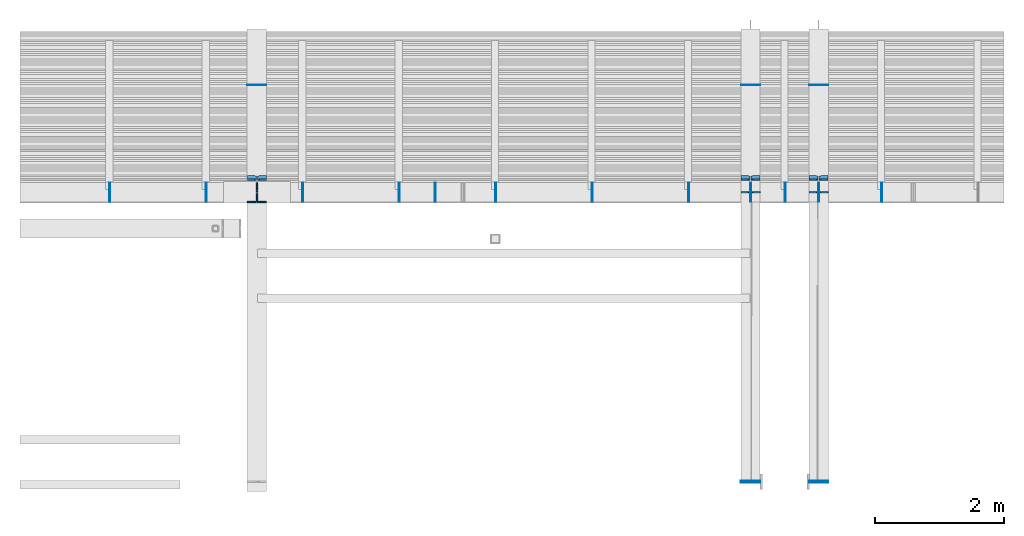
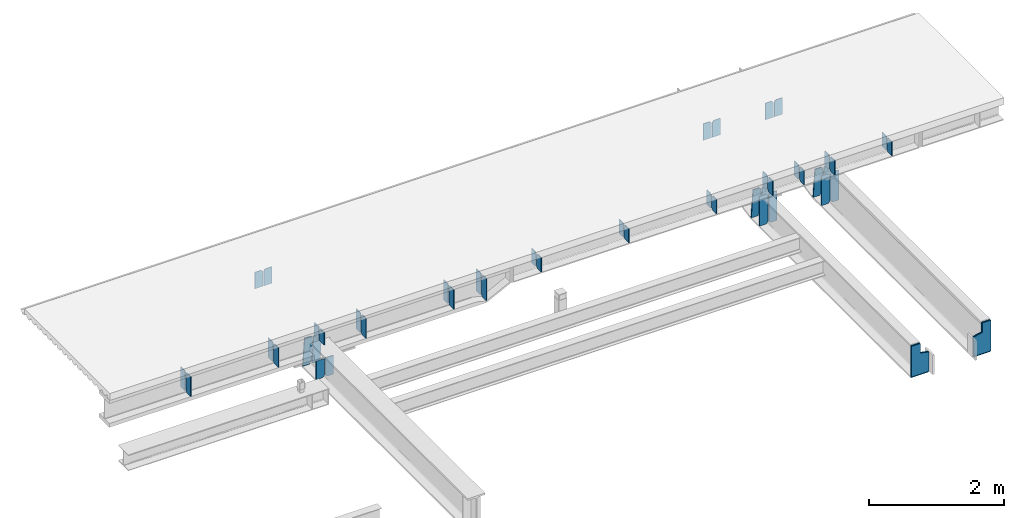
# One storey, part 2 of 12: 48 plates.
"""IFC2X3 building model written with IfcOpenShell, lengths in millimetres."""

import ifcopenshell
import ifcopenshell.guid

model = None  # the IFC model being written
_history = None  # IfcOwnerHistory: only IFC2X3 demands one
_inside = {}  # id of a spatial element -> (the spatial element, [elements in it])
_under = {}  # id of a project, library or spatial element -> (it, [spatial elements below it])
_declared = {}  # id of a project -> (the project, [libraries it declares])
_typed = {}  # id of a type object -> (the type object, [elements of that type])
_made_of = {}  # id of a material, layer set ... -> (it, [elements and type objects made of it])


def new_model(schema):
    """Start an empty IFC model of exactly this schema.

    Asked for "IFC4X3", IfcOpenShell would pick the latest addendum, in which some entities
    have other attributes; the version numbers below select the first issue.
    IFC2X3 requires an IfcOwnerHistory on every rooted entity: one is made here for all.
    """
    global model, _history
    if schema == "IFC4X3":
        model = ifcopenshell.file(schema_version=(4, 3, 0, 0))
    else:
        model = ifcopenshell.file(schema=schema)
    _inside.clear()
    _under.clear()
    _declared.clear()
    _typed.clear()
    _made_of.clear()
    _history = None
    if model.schema == "IFC2X3":
        org = make("IfcOrganization", Name="unknown")
        user = make(
            "IfcPersonAndOrganization",
            ThePerson=make("IfcPerson", FamilyName="unknown"),
            TheOrganization=org,
        )
        app = make(
            "IfcApplication",
            ApplicationDeveloper=org,
            Version="unknown",
            ApplicationFullName="unknown",
            ApplicationIdentifier="unknown",
        )
        _history = make(
            "IfcOwnerHistory",
            OwningUser=user,
            OwningApplication=app,
            ChangeAction="ADDED",
            CreationDate=0,
        )
    return model


def make(cls, **values):
    """One entity of the class cls with the attributes given. An attribute that is None is left unset."""
    return model.create_entity(
        cls, **{name: value for name, value in values.items() if value is not None}
    )


def entity(cls, *values):
    """Any entity or typed value of the class cls, its attributes in the order of the schema. None: left unset."""
    e = model.create_entity(cls)
    for i, value in enumerate(values):
        if value is not None:
            e[i] = value
    return e


def rooted(cls, **values):
    """An entity with a GlobalId (a new one), such as an element, a storey or a relation."""
    return make(cls, GlobalId=ifcopenshell.guid.new(), OwnerHistory=_history, **values)


def si_unit(unit_type, name, prefix=None):
    """IfcSIUnit, for example si_unit("LENGTHUNIT", "METRE", prefix="MILLI")."""
    return make("IfcSIUnit", UnitType=unit_type, Prefix=prefix, Name=name)


def converted_unit(unit_type, name, factor, base, dimensions=None, offset=None):
    """IfcConversionBasedUnit, such as the inch: factor (a typed value) times the base unit."""
    return make(
        "IfcConversionBasedUnit"
        if offset is None
        else "IfcConversionBasedUnitWithOffset",
        ConversionOffset=offset,
        Dimensions=None
        if dimensions is None
        else entity("IfcDimensionalExponents", *dimensions),
        UnitType=unit_type,
        Name=name,
        ConversionFactor=make(
            "IfcMeasureWithUnit", ValueComponent=factor, UnitComponent=base
        ),
    )


def derived_unit(unit_type, elements):
    """IfcDerivedUnit: a product of units, each with its exponent."""
    return make(
        "IfcDerivedUnit",
        Elements=[
            make("IfcDerivedUnitElement", Unit=unit, Exponent=power)
            for unit, power in elements
        ],
        UnitType=unit_type,
    )


def assignment(units):
    """IfcUnitAssignment: the units of a project."""
    return None if units is None else make("IfcUnitAssignment", Units=units)


def point(xyz):
    """IfcCartesianPoint."""
    return None if xyz is None else make("IfcCartesianPoint", Coordinates=xyz)


def direction(xyz):
    """IfcDirection."""
    return None if xyz is None else make("IfcDirection", DirectionRatios=xyz)


def frame(location, z_axis=None, x_axis=None):
    """IfcAxis2Placement3D, a coordinate frame: its origin and axes. An axis left out is left unset."""
    return make(
        "IfcAxis2Placement3D",
        Location=point(location),
        Axis=direction(z_axis),
        RefDirection=direction(x_axis),
    )


def origin_with_axes():
    """The frame at (0, 0, 0) with the z axis (0, 0, 1) and the x axis (1, 0, 0) written out."""
    return frame((0.0, 0.0, 0.0), z_axis=(0.0, 0.0, 1.0), x_axis=(1.0, 0.0, 0.0))


def place(relative_to, where):
    """IfcLocalPlacement: puts the frame where relative to a parent placement (None: the world)."""
    return make(
        "IfcLocalPlacement", PlacementRelTo=relative_to, RelativePlacement=where
    )


def context(
    kind, dimensions, precision=None, world=None, true_north=None, identifier=None
):
    """IfcGeometricRepresentationContext, for example the 3D "Model" context."""
    return make(
        "IfcGeometricRepresentationContext",
        ContextIdentifier=identifier,
        ContextType=kind,
        CoordinateSpaceDimension=dimensions,
        Precision=precision,
        WorldCoordinateSystem=world,
        TrueNorth=true_north,
    )


def subcontext(parent, identifier, kind, view, scale=None):
    """IfcGeometricRepresentationSubContext, for example "Body" below "Model"."""
    return make(
        "IfcGeometricRepresentationSubContext",
        ContextIdentifier=identifier,
        ContextType=kind,
        ParentContext=parent,
        TargetScale=scale,
        TargetView=view,
    )


def project(units=None, contexts=None):
    """IfcProject with its units and contexts."""
    return rooted(
        "IfcProject",
        Name="project",
        RepresentationContexts=contexts,
        UnitsInContext=assignment(units),
    )


def spatial(cls, under=None, at=None, **own):
    """A site, building, storey or space (cls), placed at a placement, below another one or the project."""
    s = rooted(cls, ObjectPlacement=at, **own)
    if under is not None:
        _under.setdefault(under.id(), (under, []))[1].append(s)
    return s


def polyline(points):
    """IfcPolyline through the points."""
    return make("IfcPolyline", Points=[point(p) for p in points])


def outline(outer, holes=None, kind="AREA"):
    """IfcArbitraryClosedProfileDef: a profile drawn as a closed curve; with holes, ...WithVoids."""
    if holes is None:
        return make("IfcArbitraryClosedProfileDef", ProfileType=kind, OuterCurve=outer)
    return make(
        "IfcArbitraryProfileDefWithVoids",
        ProfileType=kind,
        OuterCurve=outer,
        InnerCurves=holes,
    )


def extrude(swept, where, along, depth):
    """IfcExtrudedAreaSolid: the profile swept, set in the frame where, extruded along a direction by depth."""
    return make(
        "IfcExtrudedAreaSolid",
        SweptArea=swept,
        Position=where,
        ExtrudedDirection=direction(along),
        Depth=depth,
    )


def clip(a, b, op="DIFFERENCE"):
    """IfcBooleanClippingResult: the solid a cut by the half space b."""
    return make(
        "IfcBooleanClippingResult", Operator=op, FirstOperand=a, SecondOperand=b
    )


def halfspace(plane, agree):
    """IfcHalfSpaceSolid: all space on one side of the plane z = 0 of the frame plane."""
    return make(
        "IfcHalfSpaceSolid",
        BaseSurface=make("IfcPlane", Position=plane),
        AgreementFlag=agree,
    )


def shape(context_of_items, identifier, shape_type, items):
    """IfcShapeRepresentation: the items that make up one representation, for example the "Body"."""
    return make(
        "IfcShapeRepresentation",
        ContextOfItems=context_of_items,
        RepresentationIdentifier=identifier,
        RepresentationType=shape_type,
        Items=items,
    )


def material(Name=None, Category=None):
    """IfcMaterial."""
    return make("IfcMaterial", Name=Name, Category=Category)


def made_of(thing, what):
    """Note that an element or type object is made of a material, layer set ...; save() writes the relation."""
    if what is not None:
        _made_of.setdefault(what.id(), (what, []))[1].append(thing)
    return thing


def type_object(cls, material=None, **own):
    """A type object (cls), such as IfcWallType, which elements share."""
    return made_of(rooted(cls, **own), material)


def element(
    cls,
    number,
    at=None,
    inside=None,
    cuts=None,
    type_object=None,
    material=None,
    context=None,
    identifier="Body",
    shape_type=None,
    held_by="IfcProductDefinitionShape",
    body=None,
    shapes=None,
    **own,
):
    """One element of the class cls, such as IfcWall. Its Tag is "e" and its number.

    at: its placement. inside: the storey or other place that contains it. cuts: it is an
    opening in that element (IfcRelVoidsElement). A single representation is given by context,
    identifier, shape_type and body (its items); several are given by shapes. held_by: the class
    of the entity that holds the representations. save() writes the other relations.
    """
    e = rooted(cls, Tag="e%d" % number, ObjectPlacement=at, **own)
    if body is not None:
        shapes = [shape(context, identifier, shape_type, body)]
    if shapes is not None:
        e.Representation = make(held_by, Representations=shapes)
    if inside is not None:
        _inside.setdefault(inside.id(), (inside, []))[1].append(e)
    if cuts is not None:
        rooted(
            "IfcRelVoidsElement", RelatingBuildingElement=cuts, RelatedOpeningElement=e
        )
    if type_object is not None:
        _typed.setdefault(type_object.id(), (type_object, []))[1].append(e)
    return made_of(e, material)


def aggregate(whole, parts):
    """IfcRelAggregates: a whole, such as a stair, and the parts it consists of."""
    return rooted("IfcRelAggregates", RelatingObject=whole, RelatedObjects=parts)


def save(model, path):
    """Write the relations noted so far, then the file.

    IfcRelAggregates (storeys below a building ...), IfcRelContainedInSpatialStructure (elements
    in a storey), IfcRelDefinesByType, IfcRelAssociatesMaterial and IfcRelDeclares: one each for
    every whole, place, type object, material and project.
    """
    for whole, parts in _under.values():
        aggregate(whole, parts)
    for where, things in _inside.values():
        rooted(
            "IfcRelContainedInSpatialStructure",
            RelatedElements=things,
            RelatingStructure=where,
        )
    for kind, things in _typed.values():
        rooted("IfcRelDefinesByType", RelatedObjects=things, RelatingType=kind)
    for what, things in _made_of.values():
        rooted("IfcRelAssociatesMaterial", RelatedObjects=things, RelatingMaterial=what)
    for by, libraries in _declared.values():
        rooted("IfcRelDeclares", RelatingContext=by, RelatedDefinitions=libraries)
    model.write(path)


model = new_model("IFC2X3")

# Units and contexts
model_context = context("Model", 3, precision=0.01, world=frame((0.0, 4.29681676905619e-09, 0.0)), true_north=direction((4.01073788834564e-13, 1.0)))
plan_context = context("Plan", 3, precision=0.01, world=frame((0.0, 4.29681676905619e-09, 0.0)), true_north=direction((4.01073788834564e-13, 1.0)))
body_context = subcontext(model_context, "Body", "Model", "MODEL_VIEW")
ifc_project = project(units=[converted_unit("PLANEANGLEUNIT", "DEGREE", entity("IfcPositiveLengthMeasure", 0.0174532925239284), si_unit("PLANEANGLEUNIT", "RADIAN"), dimensions=[0, 0, 0, 0, 0, 0, 0]), si_unit("AREAUNIT", "SQUARE_METRE"), si_unit("LENGTHUNIT", "METRE", prefix="MILLI"), si_unit("MASSUNIT", "GRAM", prefix="KILO"), si_unit("POWERUNIT", "WATT"), si_unit("PRESSUREUNIT", "PASCAL"), si_unit("FORCEUNIT", "NEWTON", prefix="KILO"), si_unit("ELECTRICVOLTAGEUNIT", "VOLT"), si_unit("ELECTRICCURRENTUNIT", "AMPERE"), si_unit("THERMODYNAMICTEMPERATUREUNIT", "DEGREE_CELSIUS"), si_unit("TIMEUNIT", "SECOND"), si_unit("VOLUMEUNIT", "CUBIC_METRE"), derived_unit("LINEARVELOCITYUNIT", [(si_unit("LENGTHUNIT", "METRE"), 1), (si_unit("TIMEUNIT", "SECOND"), -1)]), derived_unit("VOLUMETRICFLOWRATEUNIT", [(si_unit("VOLUMEUNIT", "CUBIC_METRE"), 1), (si_unit("TIMEUNIT", "SECOND"), -1)]), derived_unit("THERMALTRANSMITTANCEUNIT", [(si_unit("POWERUNIT", "WATT"), 1), (si_unit("THERMODYNAMICTEMPERATUREUNIT", "KELVIN"), -1), (si_unit("AREAUNIT", "SQUARE_METRE"), -1)]), derived_unit("SOUNDPRESSUREUNIT", [(si_unit("PRESSUREUNIT", "PASCAL"), 1)])], contexts=[model_context, plan_context])

# Site, building, storey
site_placement = place(None, frame((0.0, -4.29681676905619e-09, 0.0), z_axis=(0.0, 0.0, 1.0), x_axis=(1.0, 0.0, 0.0)))
site = spatial("IfcSite", under=ifc_project, at=site_placement, Name="Gardermoen", CompositionType="ELEMENT")
building_placement = place(site_placement, frame((0.0, 4.29681676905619e-09, 0.0), z_axis=(0.0, 0.0, 1.0), x_axis=(1.0, 0.0, 0.0)))
building = spatial("IfcBuilding", under=site, at=building_placement, Name="TH", CompositionType="ELEMENT")
storey_placement = place(building_placement, origin_with_axes())
storey = spatial("IfcBuildingStorey", under=building, at=storey_placement, Name="D", CompositionType="ELEMENT", Elevation=0.0)

# Plates
ifc_material = material(Name="STEEL/S355")
plate_type_1 = type_object("IfcPlateType", Name="PL12*140", PredefinedType="NOTDEFINED")
for number, where, z_axis, x_axis in (
    (1, (907677.750000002, 486667.153001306, 209708.7792877), (0.0, 1.0, 0.0), (-1.0, 0.0, 6.61744490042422e-24)),
    (2, (907382.250000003, 486667.153001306, 209708.7792877), (0.0, -1.0, 0.0), (1.0, 0.0, 0.0)),
    (3, (906322.250000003, 486667.153001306, 209708.7792877), (0.0, -1.0, 0.0), (1.0, 0.0, 0.0)),
    (4, (906617.750000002, 486667.153001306, 209708.7792877), (0.0, 1.0, 0.0), (-1.0, 0.0, 6.61744490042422e-24)),
    (5, (898647.250000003, 486667.153001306, 209708.7792877), (0.0, -1.0, 0.0), (1.0, 0.0, 0.0)),
    (6, (898942.750000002, 486667.153001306, 209708.7792877), (0.0, 1.0, 0.0), (-1.0, 0.0, 6.61744490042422e-24)),
):
    element("IfcPlate", number, at=place(storey_placement, frame(where, z_axis=z_axis, x_axis=x_axis)), inside=storey, type_object=plate_type_1, material=ifc_material, Name="STÅLBJELKE", ObjectType="PL12*140", context=body_context, shape_type="SweptSolid", body=[
        extrude(outline(polyline([(0.0, 0.0), (140.0, 2.61934474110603e-10), (140.0, 270.0), (110.0, 300.0), (0.0, 300.0), (0.0, 0.0)])), frame((5.82076609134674e-11, 0.0, -6.0), z_axis=(0.0, 0.0, 1.0), x_axis=(1.0, 0.0, 0.0)), (0.0, 0.0, 1.0), 12.0),
    ])
plate_1_placement = place(storey_placement, frame((908508.949781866, 484994.495625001, 209760.0), z_axis=(-1.0, 0.0, 6.61744490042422e-24), x_axis=(0.0, -1.0, 0.0)))
element("IfcPlate", 7, at=plate_1_placement, inside=storey, type_object=plate_type_1, material=ifc_material, Name="STÅLBJELKE", ObjectType="PL12*140", context=body_context, shape_type="SweptSolid", body=[
    extrude(outline(polyline([(0.0, 27.0), (27.0, 1.06581410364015e-13), (140.0, 2.61934474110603e-10), (140.0, 259.999999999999), (27.0, 259.999999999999), (0.0, 232.999999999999), (0.0, 27.0)])), frame((5.82076609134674e-11, 0.0, -6.0), z_axis=(0.0, 0.0, 1.0), x_axis=(1.0, 0.0, 0.0)), (0.0, 0.0, 1.0), 12.0),
])
plate_2_placement = place(storey_placement, frame((908508.949781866, 485005.495625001, 209787.0), z_axis=(1.0, 0.0, 0.0), x_axis=(0.0, 0.707106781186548, -0.707106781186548)))
element("IfcPlate", 8, at=plate_2_placement, inside=storey, type_object=plate_type_1, material=ifc_material, Name="STÅLBJELKE", ObjectType="PL12*140", context=body_context, shape_type="SweptSolid", body=[
    extrude(outline(polyline([(0.0, 0.0), (38.1837654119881, -5.82076609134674e-11), (118.086830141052, 79.9030685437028), (-65.7609252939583, 263.750823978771), (-145.664001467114, 183.847763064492), (-145.664001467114, 145.664001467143), (0.0, 0.0)])), frame((5.82076609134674e-11, 0.0, -6.0), z_axis=(0.0, 0.0, 1.0), x_axis=(1.0, 0.0, 0.0)), (0.0, 0.0, 1.0), 12.0),
])
plate_3_placement = place(storey_placement, frame((907008.949781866, 484994.495625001, 209760.0), z_axis=(-1.0, 0.0, 6.61744490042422e-24), x_axis=(0.0, -1.0, 0.0)))
element("IfcPlate", 9, at=plate_3_placement, inside=storey, type_object=plate_type_1, material=ifc_material, Name="STÅLBJELKE", ObjectType="PL12*140", context=body_context, shape_type="SweptSolid", body=[
    extrude(outline(polyline([(0.0, 27.0), (27.0, 1.06581410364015e-13), (140.0, 2.61934474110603e-10), (140.0, 259.999999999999), (27.0, 259.999999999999), (0.0, 232.999999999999), (0.0, 27.0)])), frame((5.82076609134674e-11, 0.0, -6.0), z_axis=(0.0, 0.0, 1.0), x_axis=(1.0, 0.0, 0.0)), (0.0, 0.0, 1.0), 12.0),
])
plate_4_placement = place(storey_placement, frame((907008.949781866, 485005.495625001, 209787.0), z_axis=(1.0, 0.0, 0.0), x_axis=(0.0, 0.707106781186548, -0.707106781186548)))
element("IfcPlate", 10, at=plate_4_placement, inside=storey, type_object=plate_type_1, material=ifc_material, Name="STÅLBJELKE", ObjectType="PL12*140", context=body_context, shape_type="SweptSolid", body=[
    extrude(outline(polyline([(0.0, 0.0), (38.1837654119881, -5.82076609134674e-11), (118.086830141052, 79.9030685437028), (-65.7609252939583, 263.750823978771), (-145.664001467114, 183.847763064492), (-145.664001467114, 145.664001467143), (0.0, 0.0)])), frame((5.82076609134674e-11, 0.0, -6.0), z_axis=(0.0, 0.0, 1.0), x_axis=(1.0, 0.0, 0.0)), (0.0, 0.0, 1.0), 12.0),
])
plate_5_placement = place(storey_placement, frame((905508.949781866, 484994.495625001, 209760.0), z_axis=(-1.0, 0.0, 6.61744490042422e-24), x_axis=(0.0, -1.0, 0.0)))
element("IfcPlate", 11, at=plate_5_placement, inside=storey, type_object=plate_type_1, material=ifc_material, Name="STÅLBJELKE", ObjectType="PL12*140", context=body_context, shape_type="SweptSolid", body=[
    extrude(outline(polyline([(0.0, 27.0), (27.0, 1.06581410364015e-13), (140.0, 2.61934474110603e-10), (140.0, 259.999999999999), (27.0, 259.999999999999), (0.0, 232.999999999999), (0.0, 27.0)])), frame((5.82076609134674e-11, 0.0, -6.0), z_axis=(0.0, 0.0, 1.0), x_axis=(1.0, 0.0, 0.0)), (0.0, 0.0, 1.0), 12.0),
])
plate_6_placement = place(storey_placement, frame((905508.949781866, 485005.495625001, 209787.0), z_axis=(1.0, 0.0, 0.0), x_axis=(0.0, 0.707106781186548, -0.707106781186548)))
element("IfcPlate", 12, at=plate_6_placement, inside=storey, type_object=plate_type_1, material=ifc_material, Name="STÅLBJELKE", ObjectType="PL12*140", context=body_context, shape_type="SweptSolid", body=[
    extrude(outline(polyline([(0.0, 0.0), (38.1837654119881, -5.82076609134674e-11), (118.086830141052, 79.9030685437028), (-65.7609252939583, 263.750823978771), (-145.664001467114, 183.847763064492), (-145.664001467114, 145.664001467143), (0.0, 0.0)])), frame((5.82076609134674e-11, 0.0, -6.0), z_axis=(0.0, 0.0, 1.0), x_axis=(1.0, 0.0, 0.0)), (0.0, 0.0, 1.0), 12.0),
])
plate_7_placement = place(storey_placement, frame((904008.949781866, 484994.495625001, 209760.0), z_axis=(-1.0, 0.0, 6.61744490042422e-24), x_axis=(0.0, -1.0, 0.0)))
element("IfcPlate", 13, at=plate_7_placement, inside=storey, type_object=plate_type_1, material=ifc_material, Name="STÅLBJELKE", ObjectType="PL12*140", context=body_context, shape_type="SweptSolid", body=[
    extrude(outline(polyline([(0.0, 27.0), (27.0, 1.06581410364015e-13), (140.0, 2.61934474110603e-10), (140.0, 259.999999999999), (27.0, 259.999999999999), (0.0, 232.999999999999), (0.0, 27.0)])), frame((5.82076609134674e-11, 0.0, -6.0), z_axis=(0.0, 0.0, 1.0), x_axis=(1.0, 0.0, 0.0)), (0.0, 0.0, 1.0), 12.0),
])
plate_8_placement = place(storey_placement, frame((904008.949781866, 485005.495625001, 209787.0), z_axis=(1.0, 0.0, 0.0), x_axis=(0.0, 0.707106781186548, -0.707106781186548)))
element("IfcPlate", 14, at=plate_8_placement, inside=storey, type_object=plate_type_1, material=ifc_material, Name="STÅLBJELKE", ObjectType="PL12*140", context=body_context, shape_type="SweptSolid", body=[
    extrude(outline(polyline([(0.0, 0.0), (38.1837654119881, -5.82076609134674e-11), (118.086830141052, 79.9030685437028), (-65.7609252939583, 263.750823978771), (-145.664001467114, 183.847763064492), (-145.664001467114, 145.664001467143), (0.0, 0.0)])), frame((5.82076609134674e-11, 0.0, -6.0), z_axis=(0.0, 0.0, 1.0), x_axis=(1.0, 0.0, 0.0)), (0.0, 0.0, 1.0), 12.0),
])
plate_9_placement = place(storey_placement, frame((902508.949781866, 484994.495625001, 209760.0), z_axis=(-1.0, 0.0, 6.61744490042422e-24), x_axis=(0.0, -1.0, 0.0)))
element("IfcPlate", 15, at=plate_9_placement, inside=storey, type_object=plate_type_1, material=ifc_material, Name="STÅLBJELKE", ObjectType="PL12*140", context=body_context, shape_type="SweptSolid", body=[
    extrude(outline(polyline([(0.0, 27.0), (27.0, 1.06581410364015e-13), (140.0, 2.61934474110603e-10), (140.0, 259.999999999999), (27.0, 259.999999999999), (0.0, 232.999999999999), (0.0, 27.0)])), frame((5.82076609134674e-11, 0.0, -6.0), z_axis=(0.0, 0.0, 1.0), x_axis=(1.0, 0.0, 0.0)), (0.0, 0.0, 1.0), 12.0),
])
plate_10_placement = place(storey_placement, frame((902508.949781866, 485005.495625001, 209787.0), z_axis=(1.0, 0.0, 0.0), x_axis=(0.0, 0.707106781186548, -0.707106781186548)))
element("IfcPlate", 16, at=plate_10_placement, inside=storey, type_object=plate_type_1, material=ifc_material, Name="STÅLBJELKE", ObjectType="PL12*140", context=body_context, shape_type="SweptSolid", body=[
    extrude(outline(polyline([(0.0, 0.0), (38.1837654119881, -5.82076609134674e-11), (118.086830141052, 79.9030685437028), (-65.7609252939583, 263.750823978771), (-145.664001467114, 183.847763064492), (-145.664001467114, 145.664001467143), (0.0, 0.0)])), frame((5.82076609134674e-11, 0.0, -6.0), z_axis=(0.0, 0.0, 1.0), x_axis=(1.0, 0.0, 0.0)), (0.0, 0.0, 1.0), 12.0),
])
plate_11_placement = place(storey_placement, frame((901008.949781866, 484989.995625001, 209611.0), z_axis=(-1.0, 0.0, 6.61744490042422e-24), x_axis=(0.0, -1.0, 0.0)))
element("IfcPlate", 17, at=plate_11_placement, inside=storey, type_object=plate_type_1, material=ifc_material, Name="STÅLBJELKE", ObjectType="PL12*140", context=body_context, shape_type="SweptSolid", body=[
    extrude(outline(polyline([(8.31690272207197e-12, 19.9999999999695), (20.0, 0.0), (140.0, 2.61934474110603e-10), (140.0, 357.999999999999), (20.0, 357.999999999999), (0.0, 337.999999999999), (8.31690272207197e-12, 19.9999999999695)])), frame((5.82076609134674e-11, 0.0, -6.0), z_axis=(0.0, 0.0, 1.0), x_axis=(1.0, 0.0, 0.0)), (0.0, 0.0, 1.0), 12.0),
])
plate_12_placement = place(storey_placement, frame((901008.949781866, 485009.995622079, 209630.99999883), z_axis=(1.0, 0.0, 0.0), x_axis=(0.0, 0.707106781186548, -0.707106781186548)))
element("IfcPlate", 18, at=plate_12_placement, inside=storey, type_object=plate_type_1, material=ifc_material, Name="STÅLBJELKE", ObjectType="PL12*140", context=body_context, shape_type="SweptSolid", body=[
    extrude(outline(polyline([(0.0, 0.0), (28.2842693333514, 1.45519152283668e-10), (113.137084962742, 84.8528060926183), (-140.71424867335, 338.704132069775), (-225.567077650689, 253.851348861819), (-225.567077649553, 225.567077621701), (0.0, 0.0)])), frame((5.82076609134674e-11, 0.0, -6.0), z_axis=(0.0, 0.0, 1.0), x_axis=(1.0, 0.0, 0.0)), (0.0, 0.0, 1.0), 12.0),
])
plate_13_placement = place(storey_placement, frame((899508.949781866, 484989.995625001, 209611.0), z_axis=(-1.0, 0.0, 6.61744490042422e-24), x_axis=(0.0, -1.0, 0.0)))
element("IfcPlate", 19, at=plate_13_placement, inside=storey, type_object=plate_type_1, material=ifc_material, Name="STÅLBJELKE", ObjectType="PL12*140", context=body_context, shape_type="SweptSolid", body=[
    extrude(outline(polyline([(8.31690272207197e-12, 19.9999999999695), (20.0, 0.0), (140.0, 2.61934474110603e-10), (140.0, 357.999999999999), (20.0, 357.999999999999), (0.0, 337.999999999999), (8.31690272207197e-12, 19.9999999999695)])), frame((5.82076609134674e-11, 0.0, -6.0), z_axis=(0.0, 0.0, 1.0), x_axis=(1.0, 0.0, 0.0)), (0.0, 0.0, 1.0), 12.0),
])
plate_14_placement = place(storey_placement, frame((899508.949781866, 485009.995622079, 209630.99999883), z_axis=(1.0, 0.0, 0.0), x_axis=(0.0, 0.707106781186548, -0.707106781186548)))
element("IfcPlate", 20, at=plate_14_placement, inside=storey, type_object=plate_type_1, material=ifc_material, Name="STÅLBJELKE", ObjectType="PL12*140", context=body_context, shape_type="SweptSolid", body=[
    extrude(outline(polyline([(0.0, 0.0), (28.2842693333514, 1.45519152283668e-10), (113.137084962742, 84.8528060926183), (-140.71424867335, 338.704132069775), (-225.567077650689, 253.851348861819), (-225.567077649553, 225.567077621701), (0.0, 0.0)])), frame((5.82076609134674e-11, 0.0, -6.0), z_axis=(0.0, 0.0, 1.0), x_axis=(1.0, 0.0, 0.0)), (0.0, 0.0, 1.0), 12.0),
])
plate_15_placement = place(storey_placement, frame((898008.949781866, 484989.995625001, 209611.0), z_axis=(-1.0, 0.0, 6.61744490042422e-24), x_axis=(0.0, -1.0, 0.0)))
element("IfcPlate", 21, at=plate_15_placement, inside=storey, type_object=plate_type_1, material=ifc_material, Name="STÅLBJELKE", ObjectType="PL12*140", context=body_context, shape_type="SweptSolid", body=[
    extrude(outline(polyline([(8.31690272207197e-12, 19.9999999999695), (20.0, 0.0), (140.0, 2.61934474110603e-10), (140.0, 357.999999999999), (20.0, 357.999999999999), (0.0, 337.999999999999), (8.31690272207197e-12, 19.9999999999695)])), frame((5.82076609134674e-11, 0.0, -6.0), z_axis=(0.0, 0.0, 1.0), x_axis=(1.0, 0.0, 0.0)), (0.0, 0.0, 1.0), 12.0),
])
plate_16_placement = place(storey_placement, frame((898008.949781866, 485009.995622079, 209630.99999883), z_axis=(1.0, 0.0, 0.0), x_axis=(0.0, 0.707106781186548, -0.707106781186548)))
element("IfcPlate", 22, at=plate_16_placement, inside=storey, type_object=plate_type_1, material=ifc_material, Name="STÅLBJELKE", ObjectType="PL12*140", context=body_context, shape_type="SweptSolid", body=[
    extrude(outline(polyline([(0.0, 0.0), (28.2842693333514, 1.45519152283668e-10), (113.137084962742, 84.8528060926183), (-140.71424867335, 338.704132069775), (-225.567077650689, 253.851348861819), (-225.567077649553, 225.567077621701), (0.0, 0.0)])), frame((5.82076609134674e-11, 0.0, -6.0), z_axis=(0.0, 0.0, 1.0), x_axis=(1.0, 0.0, 0.0)), (0.0, 0.0, 1.0), 12.0),
])
plate_17_placement = place(storey_placement, frame((896508.949781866, 484989.995625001, 209611.0), z_axis=(-1.0, 0.0, 6.61744490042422e-24), x_axis=(0.0, -1.0, 0.0)))
element("IfcPlate", 23, at=plate_17_placement, inside=storey, type_object=plate_type_1, material=ifc_material, Name="STÅLBJELKE", ObjectType="PL12*140", context=body_context, shape_type="SweptSolid", body=[
    extrude(outline(polyline([(8.31690272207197e-12, 19.9999999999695), (20.0, 0.0), (140.0, 2.61934474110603e-10), (140.0, 357.999999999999), (20.0, 357.999999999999), (0.0, 337.999999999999), (8.31690272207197e-12, 19.9999999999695)])), frame((5.82076609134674e-11, 0.0, -6.0), z_axis=(0.0, 0.0, 1.0), x_axis=(1.0, 0.0, 0.0)), (0.0, 0.0, 1.0), 12.0),
])
plate_18_placement = place(storey_placement, frame((896508.949781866, 485009.995622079, 209630.99999883), z_axis=(1.0, 0.0, 0.0), x_axis=(0.0, 0.707106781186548, -0.707106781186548)))
element("IfcPlate", 24, at=plate_18_placement, inside=storey, type_object=plate_type_1, material=ifc_material, Name="STÅLBJELKE", ObjectType="PL12*140", context=body_context, shape_type="SweptSolid", body=[
    extrude(outline(polyline([(0.0, 0.0), (28.2842693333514, 1.45519152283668e-10), (113.137084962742, 84.8528060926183), (-140.71424867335, 338.704132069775), (-225.567077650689, 253.851348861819), (-225.567077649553, 225.567077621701), (0.0, 0.0)])), frame((5.82076609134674e-11, 0.0, -6.0), z_axis=(0.0, 0.0, 1.0), x_axis=(1.0, 0.0, 0.0)), (0.0, 0.0, 1.0), 12.0),
])
plate_type_2 = type_object("IfcPlateType", Name="PL15*300", PredefinedType="NOTDEFINED")
plate_19_placement = place(storey_placement, frame((907380.000234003, 480507.5, 209150.0), z_axis=(0.0, -1.0, 0.0), x_axis=(1.0, 0.0, 0.0)))
element("IfcPlate", 25, at=plate_19_placement, inside=storey, type_object=plate_type_2, material=ifc_material, Name="STÅLBJELKE", ObjectType="PL15*300", context=body_context, shape_type="SweptSolid", body=[
    extrude(outline(polyline([(0.0, 0.0), (300.0, 0.0), (300.0, 580.0), (150.0, 580.0), (150.0, 404.999877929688), (-1.16415321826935e-10, 374.999877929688), (0.0, 0.0)])), frame((0.0, 0.0, -7.5), z_axis=(0.0, 0.0, 1.0), x_axis=(1.0, 0.0, 0.0)), (0.0, 0.0, 1.0), 15.0),
])
for number, where, z_axis, x_axis in (
    (26, (907380.000234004, 480492.5, 209174.999885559), (0.0, -1.0, 0.0), (1.0, 0.0, 0.0)),
    (27, (906619.999766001, 480492.5, 209174.999885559), (0.0, 1.0, 0.0), (-1.0, 0.0, 6.61744490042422e-24)),
):
    element("IfcPlate", number, at=place(storey_placement, frame(where, z_axis=z_axis, x_axis=x_axis)), inside=storey, type_object=plate_type_2, material=ifc_material, Name="STÅLSPESIAL", ObjectType="PL15*300", context=body_context, shape_type="SweptSolid", body=[
        extrude(outline(polyline([(0.0, 0.0), (300.0, 0.0), (300.0, 555.000122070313), (150.0, 555.000122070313), (150.0, 380.0), (0.0, 349.999999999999), (0.0, 0.0)])), frame((0.0, 0.0, -7.5), z_axis=(0.0, 0.0, 1.0), x_axis=(1.0, 0.0, 0.0)), (0.0, 0.0, 1.0), 15.0),
    ])
plate_20_placement = place(storey_placement, frame((906619.999766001, 480507.5, 209150.0), z_axis=(0.0, 1.0, 0.0), x_axis=(-1.0, 0.0, 6.61744490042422e-24)))
element("IfcPlate", 28, at=plate_20_placement, inside=storey, type_object=plate_type_2, material=ifc_material, Name="STÅLBJELKE", ObjectType="PL15*300", context=body_context, shape_type="SweptSolid", body=[
    extrude(outline(polyline([(0.0, 0.0), (300.0, 0.0), (300.0, 580.0), (150.0, 580.0), (150.0, 404.999877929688), (-1.16415321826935e-10, 374.999877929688), (0.0, 0.0)])), frame((0.0, 0.0, -7.5), z_axis=(0.0, 0.0, 1.0), x_axis=(1.0, 0.0, 0.0)), (0.0, 0.0, 1.0), 15.0),
])
plate_type_3 = type_object("IfcPlateType", Name="PL15*140", PredefinedType="NOTDEFINED")
plate_21_placement = place(storey_placement, frame((907530.000000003, 484854.495625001, 209759.0), z_axis=(1.0, 0.0, 0.0), x_axis=(0.0, 1.0, 0.0)))
element("IfcPlate", 29, at=plate_21_placement, inside=storey, type_object=plate_type_3, material=ifc_material, Name="STÅLBJELKE", ObjectType="PL15*140", context=body_context, shape_type="SweptSolid", body=[
    extrude(outline(polyline([(0.0, 0.0), (110.0, 0.0), (140.0, 30.0), (140.0, 232.0), (110.0, 262.0), (0.0, 262.0), (0.0, 0.0)])), frame((0.0, 0.0, -7.5), z_axis=(0.0, 0.0, 1.0), x_axis=(1.0, 0.0, 0.0)), (0.0, 0.0, 1.0), 15.0),
])
plate_22_placement = place(storey_placement, frame((907530.000000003, 485005.495625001, 209759.0), z_axis=(1.0, 0.0, 0.0), x_axis=(0.0, 1.0, 0.0)))
element("IfcPlate", 30, at=plate_22_placement, inside=storey, type_object=plate_type_3, material=ifc_material, Name="STÅLBJELKE", ObjectType="PL15*140", context=body_context, shape_type="SweptSolid", body=[
    extrude(outline(polyline([(0.0, 30.0), (30.0, 1.17239551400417e-13), (140.0, 2.61934474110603e-10), (140.0, 261.999999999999), (30.0, 261.999999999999), (0.0, 231.999999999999), (0.0, 30.0)])), frame((0.0, 0.0, -7.5), z_axis=(0.0, 0.0, 1.0), x_axis=(1.0, 0.0, 0.0)), (0.0, 0.0, 1.0), 15.0),
])
plate_23_placement = place(storey_placement, frame((906470.000000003, 484854.495625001, 209759.0), z_axis=(1.0, 0.0, 0.0), x_axis=(0.0, 1.0, 0.0)))
element("IfcPlate", 31, at=plate_23_placement, inside=storey, type_object=plate_type_3, material=ifc_material, Name="STÅLBJELKE", ObjectType="PL15*140", context=body_context, shape_type="SweptSolid", body=[
    extrude(outline(polyline([(0.0, 0.0), (110.0, 0.0), (140.0, 30.0), (140.0, 232.0), (110.0, 262.0), (0.0, 262.0), (0.0, 0.0)])), frame((0.0, 0.0, -7.5), z_axis=(0.0, 0.0, 1.0), x_axis=(1.0, 0.0, 0.0)), (0.0, 0.0, 1.0), 15.0),
])
plate_24_placement = place(storey_placement, frame((906470.000000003, 485005.495625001, 209759.0), z_axis=(1.0, 0.0, 0.0), x_axis=(0.0, 1.0, 0.0)))
element("IfcPlate", 32, at=plate_24_placement, inside=storey, type_object=plate_type_3, material=ifc_material, Name="STÅLBJELKE", ObjectType="PL15*140", context=body_context, shape_type="SweptSolid", body=[
    extrude(outline(polyline([(0.0, 30.0), (30.0, 1.17239551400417e-13), (140.0, 2.61934474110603e-10), (140.0, 261.999999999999), (30.0, 261.999999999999), (0.0, 231.999999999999), (0.0, 30.0)])), frame((0.0, 0.0, -7.5), z_axis=(0.0, 0.0, 1.0), x_axis=(1.0, 0.0, 0.0)), (0.0, 0.0, 1.0), 15.0),
])
plate_25_placement = place(storey_placement, frame((901570.000437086, 485149.995625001, 209573.541023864), z_axis=(-1.0, 0.0, 6.61744490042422e-24), x_axis=(0.0, -1.0, 0.0)))
element("IfcPlate", 33, at=plate_25_placement, inside=storey, type_object=plate_type_3, material=ifc_material, Name="STÅLBJELKE", ObjectType="PL15*140", context=body_context, shape_type="Clipping", body=[
    clip(extrude(outline(polyline([(0.0, 0.0), (120.0, -2.91038304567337e-11), (140.0, 20.0), (140.0, 375.458984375), (120.0, 395.458984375), (2.03726813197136e-08, 395.458984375), (0.0, 0.0)])), frame((0.0, 0.0, -7.5), z_axis=(0.0, 0.0, 1.0), x_axis=(1.0, 0.0, 0.0)), (0.0, 0.0, 1.0), 15.0), halfspace(frame((0.0, 4.64443144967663, -7.05278597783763), z_axis=(0.0, -0.894426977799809, -0.447214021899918), x_axis=(0.0, -0.447214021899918, 0.894426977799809)), False)),
])
plate_26_placement = place(storey_placement, frame((901570.000437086, 484989.995625, 209573.541023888), z_axis=(-1.0, 0.0, 6.61744490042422e-24), x_axis=(0.0, -1.0, 0.0)))
element("IfcPlate", 34, at=plate_26_placement, inside=storey, type_object=plate_type_3, material=ifc_material, Name="STÅLBJELKE", ObjectType="PL15*140", context=body_context, shape_type="Clipping", body=[
    clip(extrude(outline(polyline([(8.31690272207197e-12, 19.9999999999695), (20.0, 0.0), (140.0, 2.61934474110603e-10), (140.0, 395.458984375), (20.0000000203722, 395.458984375), (1.93418414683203e-08, 375.458984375), (8.31690272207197e-12, 19.9999999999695)])), frame((0.0, 0.0, -7.5), z_axis=(0.0, 0.0, 1.0), x_axis=(1.0, 0.0, 0.0)), (0.0, 0.0, 1.0), 15.0), halfspace(frame((0.0, 4.64443144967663, -7.05278597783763), z_axis=(0.0, -0.894426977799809, -0.447214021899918), x_axis=(0.0, -0.447214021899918, 0.894426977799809)), False)),
])
plate_type_4 = type_object("IfcPlateType", Name="PL20*140", PredefinedType="NOTDEFINED")
for number, where, z_axis, x_axis in (
    (35, (907677.750000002, 485246.979162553, 209172.03452052), (6.65470223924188e-25, 0.994930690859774, 0.100563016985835), (-1.0, 0.0, 6.61744490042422e-24)),
    (36, (907382.250000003, 485246.979162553, 209172.03452052), (0.0, -0.994930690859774, -0.100563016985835), (1.0, 0.0, 0.0)),
):
    element("IfcPlate", number, at=place(storey_placement, frame(where, z_axis=z_axis, x_axis=x_axis)), inside=storey, type_object=plate_type_4, material=ifc_material, Name="STÅLBJELKE", ObjectType="PL20*140", context=body_context, shape_type="SweptSolid", body=[
        extrude(outline(polyline([(0.0, 0.0), (110.0, 0.0), (140.0, 30.0), (140.0, 509.999999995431), (110.0, 539.999999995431), (0.0, 539.999999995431), (0.0, 0.0)])), frame((-1.16415321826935e-10, 5.82076609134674e-11, -10.0), z_axis=(0.0, 0.0, 1.0), x_axis=(1.0, 0.0, 0.0)), (0.0, 0.0, 1.0), 20.0),
    ])
for number, where, z_axis, x_axis in (
    (37, (907677.750000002, 484999.995625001, 209171.0), (0.0, 1.0, 0.0), (-1.0, 0.0, 6.61744490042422e-24)),
    (38, (907382.250000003, 484999.995625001, 209171.0), (0.0, -1.0, 0.0), (1.0, 0.0, 0.0)),
):
    element("IfcPlate", number, at=place(storey_placement, frame(where, z_axis=z_axis, x_axis=x_axis)), inside=storey, type_object=plate_type_4, material=ifc_material, Name="STÅLBJELKE", ObjectType="PL20*140", context=body_context, shape_type="SweptSolid", body=[
        extrude(outline(polyline([(0.0, 0.0), (110.0, 0.0), (140.0, 30.0), (140.0, 507.0), (110.0, 537.0), (0.0, 537.0), (0.0, 0.0)])), frame((-1.16415321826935e-10, 5.82076609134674e-11, -10.0), z_axis=(0.0, 0.0, 1.0), x_axis=(1.0, 0.0, 0.0)), (0.0, 0.0, 1.0), 20.0),
    ])
for number, where, z_axis, x_axis in (
    (39, (906322.250000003, 485246.979162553, 209172.03452052), (0.0, -0.994930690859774, -0.100563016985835), (1.0, 0.0, 0.0)),
    (40, (906617.750000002, 485246.979162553, 209172.03452052), (6.65470223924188e-25, 0.994930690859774, 0.100563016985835), (-1.0, 0.0, 6.61744490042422e-24)),
):
    element("IfcPlate", number, at=place(storey_placement, frame(where, z_axis=z_axis, x_axis=x_axis)), inside=storey, type_object=plate_type_4, material=ifc_material, Name="STÅLBJELKE", ObjectType="PL20*140", context=body_context, shape_type="SweptSolid", body=[
        extrude(outline(polyline([(0.0, 0.0), (110.0, 0.0), (140.0, 30.0), (140.0, 509.999999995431), (110.0, 539.999999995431), (0.0, 539.999999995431), (0.0, 0.0)])), frame((-1.16415321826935e-10, 5.82076609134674e-11, -10.0), z_axis=(0.0, 0.0, 1.0), x_axis=(1.0, 0.0, 0.0)), (0.0, 0.0, 1.0), 20.0),
    ])
for number, where, z_axis, x_axis in (
    (41, (906322.250000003, 484999.995625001, 209171.0), (0.0, -1.0, 0.0), (1.0, 0.0, 0.0)),
    (42, (906617.750000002, 484999.995625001, 209171.0), (0.0, 1.0, 0.0), (-1.0, 0.0, 6.61744490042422e-24)),
):
    element("IfcPlate", number, at=place(storey_placement, frame(where, z_axis=z_axis, x_axis=x_axis)), inside=storey, type_object=plate_type_4, material=ifc_material, Name="STÅLBJELKE", ObjectType="PL20*140", context=body_context, shape_type="SweptSolid", body=[
        extrude(outline(polyline([(0.0, 0.0), (110.0, 0.0), (140.0, 30.0), (140.0, 507.0), (110.0, 537.0), (0.0, 537.0), (0.0, 0.0)])), frame((-1.16415321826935e-10, 5.82076609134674e-11, -10.0), z_axis=(0.0, 0.0, 1.0), x_axis=(1.0, 0.0, 0.0)), (0.0, 0.0, 1.0), 20.0),
    ])
for number, where, z_axis, x_axis in (
    (43, (898795.000000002, 485010.004375, 209741.0), (-1.0, 0.0, 0.0), (0.0, 0.0, 1.0)),
    (44, (898795.000000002, 484989.995625, 209741.0), (1.0, 0.0, 0.0), (0.0, 0.0, 1.0)),
):
    element("IfcPlate", number, at=place(storey_placement, frame(where, z_axis=z_axis, x_axis=x_axis)), inside=storey, type_object=plate_type_4, material=ifc_material, Name="STÅLBJELKE", ObjectType="PL20*140", context=body_context, shape_type="SweptSolid", body=[
        extrude(outline(polyline([(0.0, 0.0), (208.0, 0.0), (228.0, 20.0), (228.0, 140.0), (0.0, 140.0), (0.0, 0.0)])), frame((-1.16415321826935e-10, 5.82076609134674e-11, -10.0), z_axis=(0.0, 0.0, 1.0), x_axis=(1.0, 0.0, 0.0)), (0.0, 0.0, 1.0), 20.0),
    ])
for number, where, z_axis, x_axis in (
    (45, (898647.250000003, 485246.979162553, 209172.03452052), (0.0, -0.994930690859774, -0.100563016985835), (1.0, 0.0, 0.0)),
    (46, (898942.750000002, 485246.979162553, 209172.03452052), (6.65470223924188e-25, 0.994930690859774, 0.100563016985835), (-1.0, 0.0, 6.61744490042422e-24)),
):
    element("IfcPlate", number, at=place(storey_placement, frame(where, z_axis=z_axis, x_axis=x_axis)), inside=storey, type_object=plate_type_4, material=ifc_material, Name="STÅLBJELKE", ObjectType="PL20*140", context=body_context, shape_type="SweptSolid", body=[
        extrude(outline(polyline([(0.0, 0.0), (110.0, 0.0), (140.0, 30.0), (140.0, 509.999999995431), (110.0, 539.999999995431), (0.0, 539.999999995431), (0.0, 0.0)])), frame((-1.16415321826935e-10, 5.82076609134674e-11, -10.0), z_axis=(0.0, 0.0, 1.0), x_axis=(1.0, 0.0, 0.0)), (0.0, 0.0, 1.0), 20.0),
    ])
for number, where, z_axis, x_axis in (
    (47, (898647.250000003, 484850.0, 209171.0), (0.0, -1.0, 0.0), (1.0, 0.0, 0.0)),
    (48, (898942.750000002, 484850.0, 209171.0), (0.0, 1.0, 0.0), (-1.0, 0.0, 6.61744490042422e-24)),
):
    element("IfcPlate", number, at=place(storey_placement, frame(where, z_axis=z_axis, x_axis=x_axis)), inside=storey, type_object=plate_type_4, material=ifc_material, Name="STÅLBJELKE", ObjectType="PL20*140", context=body_context, shape_type="SweptSolid", body=[
        extrude(outline(polyline([(0.0, 0.0), (110.0, 0.0), (140.0, 30.0), (140.0, 337.0), (0.0, 337.0), (0.0, 0.0)])), frame((-1.16415321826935e-10, 5.82076609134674e-11, -10.0), z_axis=(0.0, 0.0, 1.0), x_axis=(1.0, 0.0, 0.0)), (0.0, 0.0, 1.0), 20.0),
    ])

save(model, "model.ifc")
